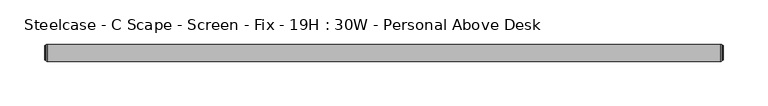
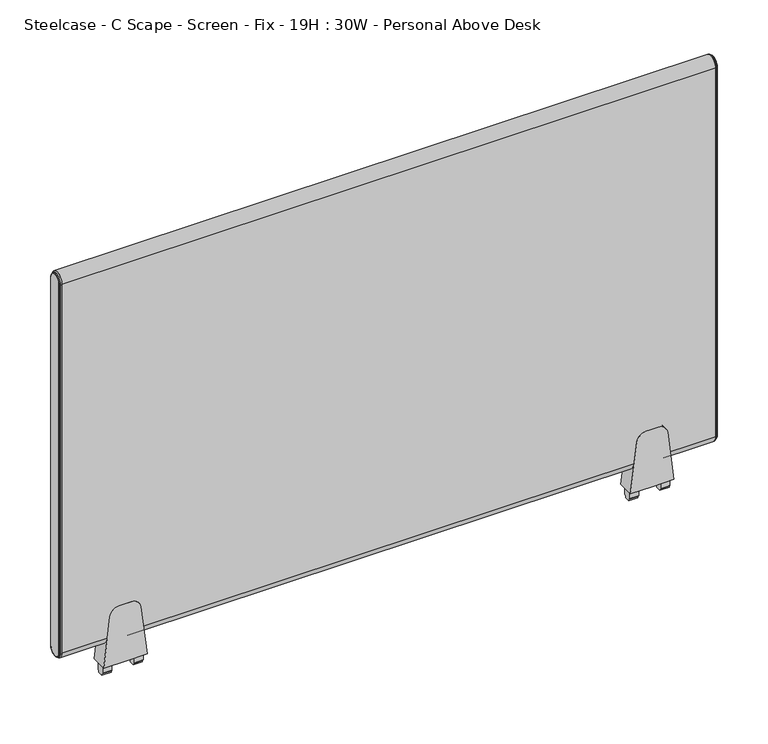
"""IFC4 building model written with IfcOpenShell, lengths in millimetres: furniture geometry, Steelcase - C Scape - Screen - Fix - 19H : 30W - Personal Above Desk."""

from ifc_helpers import new_model, si_unit, point, frame, frame_2d, origin, place, context, project, spatial, polyline, circle_curve, ellipse_curve, trimmed, segment, composite_curve, outline, extrude, source, transform, mapped, element, save
from ifc_brep_helpers import plane_surface, cylinder_surface, revolved_surface, advanced_brep


def steelcase_c_scape_screen_fix_19h_30w_personal_above_desk_258b2f05(model_context):
    return source(origin(), model_context, "Body", "SolidModel", [
        extrude(outline(composite_curve([segment(polyline([(723.811112, 101.4730434), (784.1362421, 94.0661495)]), True, "CONTINUOUS"), segment(trimmed(circle_curve(frame_2d((782.8143718, 83.300233)), 10.8467645), [point((784.1362421, 94.0661495))], [point((793.6611362, 83.300233))], False, "CARTESIAN"), True, "CONTINUOUS"), segment(polyline([(793.6611362, 83.300233), (793.6611362, 76.2001674), (793.6611362, 69.1001018)]), True, "CONTINUOUS"), segment(trimmed(circle_curve(frame_2d((782.8143718, 69.1001018)), 10.8467645), [point((793.6611362, 69.1001018))], [point((784.1362421, 58.3341853))], False, "CARTESIAN"), True, "CONTINUOUS"), segment(polyline([(784.1362421, 58.3341853), (723.811112, 50.9272915), (723.811112, 76.2001674), (723.811112, 101.4730434)]), True, "CONTINUOUS")], self_intersect=False)), frame((0.0, -9.525, 0.0), z_axis=(0.0, 1.0, 0.0), x_axis=(0.0, 0.0, 1.0)), (0.0, 0.0, 1.0), 19.05),
        extrude(outline(polyline([(4.5465975, 723.811112), (4.5465975, 713.9051033), (4.0139265, 713.0186748), (2.9972008, 713.0186748), (2.9972008, 710.7834188), (0.0, 710.692), (-2.9972008, 710.7834188), (-2.9972008, 713.0186748), (-4.0139265, 713.0186748), (-4.5465975, 713.9051033), (-4.5465975, 723.811112), (0.0, 723.811112), (4.5465975, 723.811112)])), frame((88.9267162, 0.0, 0.0), z_axis=(1.0, 0.0, 0.0), x_axis=(0.0, 1.0, 0.0)), (0.0, 0.0, 1.0), 10.7813187),
        extrude(outline(polyline([(4.5465975, 723.811112), (4.5465975, 713.9051033), (4.0139265, 713.0186748), (2.9972008, 713.0186748), (2.9972008, 710.7834188), (0.0, 710.692), (-2.9972008, 710.7834188), (-2.9972008, 713.0186748), (-4.0139265, 713.0186748), (-4.5465975, 713.9051033), (-4.5465975, 723.811112), (0.0, 723.811112), (4.5465975, 723.811112)])), frame((52.6923, 0.0, 0.0), z_axis=(1.0, 0.0, 0.0), x_axis=(0.0, 1.0, 0.0)), (0.0, 0.0, 1.0), 10.7813187),
        extrude(outline(composite_curve([segment(polyline([(723.811112, 710.3107132), (784.1362421, 702.9038193)]), True, "CONTINUOUS"), segment(trimmed(circle_curve(frame_2d((782.8143718, 692.1379028)), 10.8467645), [point((784.1362421, 702.9038193))], [point((793.6611362, 692.1379028))], False, "CARTESIAN"), True, "CONTINUOUS"), segment(polyline([(793.6611362, 692.1379028), (793.6611362, 685.0378372), (793.6611362, 677.9377716)]), True, "CONTINUOUS"), segment(trimmed(circle_curve(frame_2d((782.8143718, 677.9377716)), 10.8467645), [point((793.6611362, 677.9377716))], [point((784.1362421, 667.1718551))], False, "CARTESIAN"), True, "CONTINUOUS"), segment(polyline([(784.1362421, 667.1718551), (723.811112, 659.7649612), (723.811112, 685.0378372), (723.811112, 710.3107132)]), True, "CONTINUOUS")], self_intersect=False)), frame((0.0, -9.525, 0.0), z_axis=(0.0, 1.0, 0.0), x_axis=(0.0, 0.0, 1.0)), (0.0, 0.0, 1.0), 19.05),
        extrude(outline(polyline([(4.5465975, 723.811112), (4.5465975, 713.9051033), (4.0139265, 713.0186748), (2.9972008, 713.0186748), (2.9972008, 710.7834188), (0.0, 710.692), (-2.9972008, 710.7834188), (-2.9972008, 713.0186748), (-4.0139265, 713.0186748), (-4.5465975, 713.9051033), (-4.5465975, 723.811112), (0.0, 723.811112), (4.5465975, 723.811112)])), frame((697.764386, 0.0, 0.0), z_axis=(1.0, 0.0, 0.0), x_axis=(0.0, 1.0, 0.0)), (0.0, 0.0, 1.0), 10.7813187),
        extrude(outline(polyline([(4.5465975, 723.811112), (4.5465975, 713.9051033), (4.0139265, 713.0186748), (2.9972008, 713.0186748), (2.9972008, 710.7834188), (0.0, 710.692), (-2.9972008, 710.7834188), (-2.9972008, 713.0186748), (-4.0139265, 713.0186748), (-4.5465975, 713.9051033), (-4.5465975, 723.811112), (0.0, 723.811112), (4.5465975, 723.811112)])), frame((661.5299698, 0.0, 0.0), z_axis=(1.0, 0.0, 0.0), x_axis=(0.0, 1.0, 0.0)), (0.0, 0.0, 1.0), 10.7813187),
        advanced_brep(
        [(758.4486613, -9.525, 1209.675), (758.4486613, 9.525, 1209.675), (758.4486613, 9.525, 758.825), (758.4486613, -9.525, 758.825), (761.2426613, 7.4929583, 1209.675), (761.2426613, -7.4929583, 1209.675), (761.2426613, -7.4929583, 758.825), (761.2426613, 7.4929583, 758.825), (760.7346545, -8.0009651, 1209.675), (760.7346545, 8.0009651, 1209.675), (759.4646613, 8.0009651, 1209.675), (759.4646613, -8.0009651, 1209.675), (759.4646613, -8.8204932, 1209.675), (759.4646613, 8.8204932, 1209.675), (759.4646613, -8.0009651, 758.825), (760.7346545, -8.0009651, 758.825), (759.4646613, -8.8204932, 758.825), (759.4646613, 8.0009651, 758.825), (760.7346545, 8.0009651, 758.825), (759.4646613, 8.8204932, 758.825)],
        [
            (0, 1, circle_curve(frame((758.4486613, 0.0, 1209.675), z_axis=(-1.0, 0.0, 0.0), x_axis=(0.0, 1.0, 0.0)), 9.525)),
            (1, 2),
            (2, 3, circle_curve(frame((758.4486613, 0.0, 758.825), z_axis=(-1.0, 0.0, 0.0), x_axis=(0.0, -1.0, 0.0)), 9.525)),
            (3, 0),
            (4, 5, circle_curve(frame((761.2426613, 0.0, 1209.675), z_axis=(1.0, 0.0, 0.0), x_axis=(0.0, 1.0, 0.0)), 7.4929583)),
            (5, 6),
            (6, 7, circle_curve(frame((761.2426613, 0.0, 758.825), z_axis=(1.0, 0.0, 0.0), x_axis=(0.0, -1.0, 0.0)), 7.4929583)),
            (7, 4),
            (8, 9, circle_curve(frame((760.7346545, 0.0, 1209.675), z_axis=(-1.0, 0.0, 0.0), x_axis=(0.0, 1.0, 0.0)), 8.0009651)),
            (9, 10),
            (10, 11, circle_curve(frame((759.4646613, 0.0, 1209.675), z_axis=(1.0, 0.0, 0.0), x_axis=(0.0, 1.0, 0.0)), 8.0009651)),
            (11, 8),
            (8, 5, circle_curve(frame((760.7346545, -7.4929583, 1209.675), z_axis=(0.0, 0.0, 1.0), x_axis=(0.0, -1.0, 0.0)), 0.5080068)),
            (4, 9, circle_curve(frame((760.7346545, 7.4929583, 1209.675), z_axis=(0.0, 0.0, 1.0), x_axis=(0.0, 1.0, 0.0)), 0.5080068)),
            (12, 13, circle_curve(frame((759.4646613, 0.0, 1209.675), z_axis=(-1.0, 0.0, 0.0), x_axis=(0.0, 1.0, 0.0)), 8.8204932)),
            (13, 1, circle_curve(frame((758.3806211, 8.3420139, 1209.675), z_axis=(0.0, 0.0, 1.0), x_axis=(0.0, 1.0, 0.0)), 1.1849411)),
            (0, 12, circle_curve(frame((758.3806211, -8.3420139, 1209.675), z_axis=(0.0, 0.0, 1.0), x_axis=(0.0, -1.0, 0.0)), 1.1849411)),
            (11, 14),
            (14, 15),
            (15, 8),
            (15, 6, circle_curve(frame((760.7346545, -7.4929583, 758.825), z_axis=(0.0, 0.0, 1.0), x_axis=(0.0, -1.0, 0.0)), 0.5080068)),
            (3, 16, circle_curve(frame((758.3806211, -8.3420139, 758.825), z_axis=(0.0, 0.0, 1.0), x_axis=(0.0, -1.0, 0.0)), 1.1849411)),
            (16, 12),
            (14, 17, circle_curve(frame((759.4646613, 0.0, 758.825), z_axis=(1.0, 0.0, 0.0), x_axis=(0.0, -1.0, 0.0)), 8.0009651)),
            (17, 18),
            (18, 15, circle_curve(frame((760.7346545, 0.0, 758.825), z_axis=(-1.0, 0.0, 0.0), x_axis=(0.0, -1.0, 0.0)), 8.0009651)),
            (18, 7, circle_curve(frame((760.7346545, 7.4929583, 758.825), z_axis=(0.0, 0.0, -1.0), x_axis=(0.0, 1.0, 0.0)), 0.5080068)),
            (2, 19, circle_curve(frame((758.3806211, 8.3420139, 758.825), z_axis=(0.0, 0.0, -1.0), x_axis=(0.0, 1.0, 0.0)), 1.1849411)),
            (19, 16, circle_curve(frame((759.4646613, 0.0, 758.825), z_axis=(-1.0, 0.0, 0.0), x_axis=(0.0, -1.0, 0.0)), 8.8204932)),
            (9, 18),
            (17, 10),
            (13, 19),
        ],
        [
            plane_surface(frame((758.4486613, -6.3509705, 1209.675), z_axis=(-1.0, 0.0, 0.0), x_axis=(0.0, 0.0, 1.0))),
            plane_surface(frame((761.2426613, -6.3509705, 1209.675), z_axis=(1.0, 0.0, 0.0), x_axis=(0.0, 0.0, -1.0))),
            cylinder_surface(frame((758.4486613, 0.0, 1209.675), z_axis=(1.0, 0.0, 0.0), x_axis=(0.0, 1.0, 0.0)), 8.0009651),
            revolved_surface(trimmed(ellipse_curve(frame((760.7346545, 7.4929583, 1209.675), z_axis=(0.0, 0.0, -1.0), x_axis=(0.0, 1.0, 0.0)), 0.5080068, 0.5080068), [point((760.7346545, 8.0009651, 1209.675))], [point((761.2426613, 7.4929583, 1209.675))], True, "CARTESIAN"), (758.4486613, 0.0, 1209.675), (1.0, 0.0, 0.0)),
            revolved_surface(trimmed(ellipse_curve(frame((758.3806211, 8.3420139, 1209.675), z_axis=(0.0, 0.0, -1.0), x_axis=(0.0, 1.0, 0.0)), 1.1849411, 1.1849411), [point((758.4486613, 9.525, 1209.675))], [point((759.4646613, 8.8204932, 1209.675))], True, "CARTESIAN"), (758.4486613, 0.0, 1209.675), (1.0, 0.0, 0.0)),
            plane_surface(frame((759.4646613, -8.0009651, 1209.675), z_axis=(0.0, -1.0, 0.0), x_axis=(0.0, 0.0, -1.0))),
            cylinder_surface(frame((760.7346545, -7.4929583, 1209.675), z_axis=(0.0, 0.0, 1.0), x_axis=(0.0, -1.0, 0.0)), 0.5080068),
            cylinder_surface(frame((758.3806211, -8.3420139, 1209.675), z_axis=(0.0, 0.0, 1.0), x_axis=(0.0, -1.0, 0.0)), 1.1849411),
            cylinder_surface(frame((758.4486613, 0.0, 758.825), z_axis=(1.0, 0.0, 0.0), x_axis=(0.0, -1.0, 0.0)), 8.0009651),
            revolved_surface(trimmed(ellipse_curve(frame((760.7346545, -7.4929583, 758.825), z_axis=(0.0, 0.0, 1.0), x_axis=(0.0, -1.0, 0.0)), 0.5080068, 0.5080068), [point((760.7346545, -8.0009651, 758.825))], [point((761.2426613, -7.4929583, 758.825))], True, "CARTESIAN"), (758.4486613, 0.0, 758.825), (1.0, 0.0, 0.0)),
            revolved_surface(trimmed(ellipse_curve(frame((758.3806211, -8.3420139, 758.825), z_axis=(0.0, 0.0, 1.0), x_axis=(0.0, -1.0, 0.0)), 1.1849411, 1.1849411), [point((758.4486613, -9.525, 758.825))], [point((759.4646613, -8.8204932, 758.825))], True, "CARTESIAN"), (758.4486613, 0.0, 758.825), (1.0, 0.0, 0.0)),
            plane_surface(frame((759.4646613, 8.0009651, 758.825), z_axis=(0.0, 1.0, 0.0), x_axis=(0.0, 0.0, 1.0))),
            cylinder_surface(frame((760.7346545, 7.4929583, 758.825), z_axis=(0.0, 0.0, -1.0), x_axis=(0.0, 1.0, 0.0)), 0.5080068),
            cylinder_surface(frame((758.3806211, 8.3420139, 758.825), z_axis=(0.0, 0.0, -1.0), x_axis=(0.0, 1.0, 0.0)), 1.1849411),
            plane_surface(frame((759.4646613, 8.8204932, 758.825), z_axis=(1.0, 0.0, 0.0), x_axis=(0.0, 0.0, 1.0))),
        ],
        [
            (0, [[1, 2, 3, 4]]),
            (1, [[5, 6, 7, 8]]),
            (2, [[9, 10, 11, 12]]),
            (3, [[-9, 13, -5, 14]]),
            (4, [[15, 16, -1, 17]]),
            (5, [[-12, 18, 19, 20]]),
            (6, [[-13, -20, 21, -6]]),
            (7, [[-17, -4, 22, 23]]),
            (8, [[-19, 24, 25, 26]]),
            (9, [[-21, -26, 27, -7]]),
            (10, [[-22, -3, 28, 29]]),
            (11, [[-10, 30, -25, 31]]),
            (12, [[-14, -8, -27, -30]]),
            (13, [[-16, 32, -28, -2]]),
            (14, [[-15, -23, -29, -32], [-11, -31, -24, -18]]),
        ],
    ),
        advanced_brep(
        [(2.7940155, 9.525, 1209.675), (2.7940155, -9.525, 1209.675), (2.7940155, -9.525, 758.825), (2.7940155, 9.525, 758.825), (0.0, -7.4929583, 1209.675), (0.0, 7.4929583, 1209.675), (0.0, 7.4929583, 758.825), (0.0, -7.4929583, 758.825), (1.778, 8.8204932, 1209.675), (1.778, -8.8204932, 1209.675), (0.5080068, -8.0009651, 1209.675), (0.5080068, 8.0009651, 1209.675), (1.778, -8.0009651, 1209.675), (1.778, 8.0009651, 1209.675), (1.778, -8.8204932, 758.825), (0.5080068, -8.0009651, 758.825), (1.778, -8.0009651, 758.825), (1.778, 8.8204932, 758.825), (0.5080068, 8.0009651, 758.825), (1.778, 8.0009651, 758.825)],
        [
            (0, 1, circle_curve(frame((2.7940155, 0.0, 1209.675), z_axis=(1.0, 0.0, 0.0), x_axis=(0.0, 1.0, 0.0)), 9.525)),
            (1, 2),
            (2, 3, circle_curve(frame((2.7940155, 0.0, 758.825), z_axis=(1.0, 0.0, 0.0), x_axis=(0.0, -1.0, 0.0)), 9.525)),
            (3, 0),
            (4, 5, circle_curve(frame((0.0, 0.0, 1209.675), z_axis=(-1.0, 0.0, 0.0), x_axis=(0.0, 1.0, 0.0)), 7.4929583)),
            (5, 6),
            (6, 7, circle_curve(frame((0.0, 0.0, 758.825), z_axis=(-1.0, 0.0, 0.0), x_axis=(0.0, -1.0, 0.0)), 7.4929583)),
            (7, 4),
            (0, 8, circle_curve(frame((2.8620402, 8.3420139, 1209.675), z_axis=(0.0, 0.0, 1.0), x_axis=(0.0, -1.0, 0.0)), 1.1849411)),
            (8, 9, circle_curve(frame((1.778, 0.0, 1209.675), z_axis=(1.0, 0.0, 0.0), x_axis=(0.0, 1.0, 0.0)), 8.8204932)),
            (9, 1, circle_curve(frame((2.8620402, -8.3420139, 1209.675), z_axis=(0.0, 0.0, 1.0), x_axis=(0.0, 1.0, 0.0)), 1.1849411)),
            (10, 11, circle_curve(frame((0.5080068, 0.0, 1209.675), z_axis=(-1.0, 0.0, 0.0), x_axis=(0.0, 1.0, 0.0)), 8.0009651)),
            (11, 5, circle_curve(frame((0.5080068, 7.4929583, 1209.675), z_axis=(0.0, 0.0, 1.0), x_axis=(0.0, -1.0, 0.0)), 0.5080068)),
            (4, 10, circle_curve(frame((0.5080068, -7.4929583, 1209.675), z_axis=(0.0, 0.0, 1.0), x_axis=(0.0, 1.0, 0.0)), 0.5080068)),
            (10, 12),
            (12, 13, circle_curve(frame((1.778, 0.0, 1209.675), z_axis=(-1.0, 0.0, 0.0), x_axis=(0.0, 1.0, 0.0)), 8.0009651)),
            (13, 11),
            (9, 14),
            (14, 2, circle_curve(frame((2.8620402, -8.3420139, 758.825), z_axis=(0.0, 0.0, 1.0), x_axis=(0.0, 1.0, 0.0)), 1.1849411)),
            (7, 15, circle_curve(frame((0.5080068, -7.4929583, 758.825), z_axis=(0.0, 0.0, 1.0), x_axis=(0.0, 1.0, 0.0)), 0.5080068)),
            (15, 10),
            (15, 16),
            (16, 12),
            (14, 17, circle_curve(frame((1.778, 0.0, 758.825), z_axis=(1.0, 0.0, 0.0), x_axis=(0.0, -1.0, 0.0)), 8.8204932)),
            (17, 3, circle_curve(frame((2.8620402, 8.3420139, 758.825), z_axis=(0.0, 0.0, -1.0), x_axis=(0.0, -1.0, 0.0)), 1.1849411)),
            (6, 18, circle_curve(frame((0.5080068, 7.4929583, 758.825), z_axis=(0.0, 0.0, -1.0), x_axis=(0.0, -1.0, 0.0)), 0.5080068)),
            (18, 15, circle_curve(frame((0.5080068, 0.0, 758.825), z_axis=(-1.0, 0.0, 0.0), x_axis=(0.0, -1.0, 0.0)), 8.0009651)),
            (18, 19),
            (19, 16, circle_curve(frame((1.778, 0.0, 758.825), z_axis=(-1.0, 0.0, 0.0), x_axis=(0.0, -1.0, 0.0)), 8.0009651)),
            (8, 17),
            (19, 13),
            (11, 18),
        ],
        [
            plane_surface(frame((2.7940155, -6.3509705, 1209.675), z_axis=(1.0, 0.0, 0.0), x_axis=(0.0, 0.0, -1.0))),
            plane_surface(frame((0.0, -6.3509705, 1209.675), z_axis=(-1.0, 0.0, 0.0), x_axis=(0.0, 0.0, 1.0))),
            revolved_surface(trimmed(ellipse_curve(frame((2.8620402, 8.3420139, 1209.675), z_axis=(0.0, 0.0, -1.0), x_axis=(0.0, -1.0, 0.0)), 1.1849411, 1.1849411), [point((1.778, 8.8204932, 1209.675))], [point((2.794, 9.525, 1209.675))], True, "CARTESIAN"), (2.794, 0.0, 1209.675), (1.0, 0.0, 0.0)),
            revolved_surface(trimmed(ellipse_curve(frame((0.5080068, 7.4929583, 1209.675), z_axis=(0.0, 0.0, -1.0), x_axis=(0.0, -1.0, 0.0)), 0.5080068, 0.5080068), [point((0.0, 7.4929583, 1209.675))], [point((0.5080068, 8.0009651, 1209.675))], True, "CARTESIAN"), (2.794, 0.0, 1209.675), (1.0, 0.0, 0.0)),
            cylinder_surface(frame((2.794, 0.0, 1209.675), z_axis=(1.0, 0.0, 0.0), x_axis=(0.0, 1.0, 0.0)), 8.0009651),
            cylinder_surface(frame((2.8620402, -8.3420139, 1209.675), z_axis=(0.0, 0.0, 1.0), x_axis=(0.0, 1.0, 0.0)), 1.1849411),
            cylinder_surface(frame((0.5080068, -7.4929583, 1209.675), z_axis=(0.0, 0.0, 1.0), x_axis=(0.0, 1.0, 0.0)), 0.5080068),
            plane_surface(frame((0.5080068, -8.0009651, 1209.675), z_axis=(0.0, -1.0, 0.0), x_axis=(0.0, 0.0, -1.0))),
            revolved_surface(trimmed(ellipse_curve(frame((2.8620402, -8.3420139, 758.825), z_axis=(0.0, 0.0, 1.0), x_axis=(0.0, 1.0, 0.0)), 1.1849411, 1.1849411), [point((1.778, -8.8204932, 758.825))], [point((2.794, -9.525, 758.825))], True, "CARTESIAN"), (2.794, 0.0, 758.825), (1.0, 0.0, 0.0)),
            revolved_surface(trimmed(ellipse_curve(frame((0.5080068, -7.4929583, 758.825), z_axis=(0.0, 0.0, 1.0), x_axis=(0.0, 1.0, 0.0)), 0.5080068, 0.5080068), [point((0.0, -7.4929583, 758.825))], [point((0.5080068, -8.0009651, 758.825))], True, "CARTESIAN"), (2.794, 0.0, 758.825), (1.0, 0.0, 0.0)),
            cylinder_surface(frame((2.794, 0.0, 758.825), z_axis=(1.0, 0.0, 0.0), x_axis=(0.0, -1.0, 0.0)), 8.0009651),
            plane_surface(frame((1.778, 8.0009651, 758.825), z_axis=(-1.0, 0.0, 0.0), x_axis=(0.0, 0.0, 1.0))),
            cylinder_surface(frame((2.8620402, 8.3420139, 758.825), z_axis=(0.0, 0.0, -1.0), x_axis=(0.0, -1.0, 0.0)), 1.1849411),
            cylinder_surface(frame((0.5080068, 7.4929583, 758.825), z_axis=(0.0, 0.0, -1.0), x_axis=(0.0, -1.0, 0.0)), 0.5080068),
            plane_surface(frame((0.5080068, 8.0009651, 758.825), z_axis=(0.0, 1.0, 0.0), x_axis=(0.0, 0.0, 1.0))),
        ],
        [
            (0, [[1, 2, 3, 4]]),
            (1, [[5, 6, 7, 8]]),
            (2, [[-1, 9, 10, 11]]),
            (3, [[12, 13, -5, 14]]),
            (4, [[-12, 15, 16, 17]]),
            (5, [[-11, 18, 19, -2]]),
            (6, [[-14, -8, 20, 21]]),
            (7, [[-15, -21, 22, 23]]),
            (8, [[-19, 24, 25, -3]]),
            (9, [[-20, -7, 26, 27]]),
            (10, [[-22, -27, 28, 29]]),
            (11, [[-10, 30, -24, -18], [-16, -23, -29, 31]]),
            (12, [[-9, -4, -25, -30]]),
            (13, [[-13, 32, -26, -6]]),
            (14, [[-17, -31, -28, -32]]),
        ],
    ),
        extrude(outline(composite_curve([segment(trimmed(circle_curve(frame_2d((0.0, 1209.675)), 9.525), [point((-9.525, 1209.675))], [point((9.525, 1209.675))], False, "CARTESIAN"), True, "CONTINUOUS"), segment(polyline([(9.525, 1209.675), (9.525, 758.825)]), True, "CONTINUOUS"), segment(trimmed(circle_curve(frame_2d((0.0, 758.825)), 9.525), [point((9.525, 758.825))], [point((-9.525, 758.825))], False, "CARTESIAN"), True, "CONTINUOUS"), segment(polyline([(-9.525, 758.825), (-9.525, 1209.675)]), True, "CONTINUOUS")], self_intersect=False)), frame((2.794, 0.0, 0.0), z_axis=(1.0, 0.0, 0.0), x_axis=(0.0, 1.0, 0.0)), (0.0, 0.0, 1.0), 755.6546613),
    ])


if __name__ == "__main__":
    model = new_model("IFC4")
    model_context = context("Model", 3, world=origin())
    ifc_project = project(units=[si_unit("LENGTHUNIT", "METRE", prefix="MILLI")], contexts=[model_context])
    site = spatial("IfcSite", under=ifc_project)
    building = spatial("IfcBuilding", under=site)
    placement = place(None, origin())
    steelcase_c_scape_screen_fix_19h_30w_personal_above_desk_shape = steelcase_c_scape_screen_fix_19h_30w_personal_above_desk_258b2f05(model_context)
    element("IfcFurniture", 1, ObjectType="Steelcase - C Scape - Screen - Fix - 19H : 30W - Personal Above Desk", at=placement, inside=building, context=model_context, shape_type="MappedRepresentation", body=[
        mapped(steelcase_c_scape_screen_fix_19h_30w_personal_above_desk_shape, transform((0.0, 0.0, 0.0), x_axis=(1.0, 0.0, 0.0), y_axis=(0.0, 1.0, 0.0), z_axis=(0.0, 0.0, 1.0))),
    ])
    save(model, "model.ifc")
